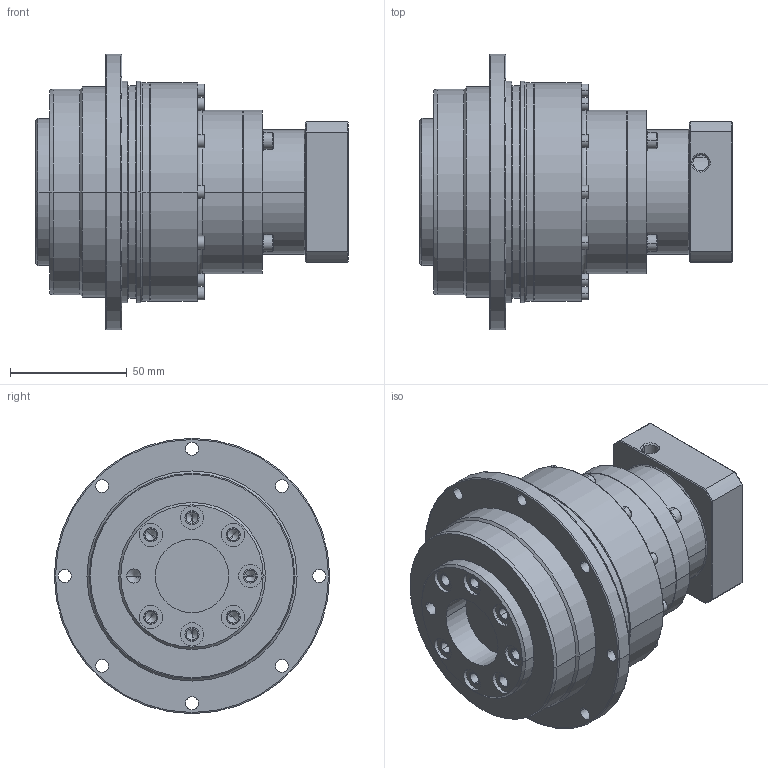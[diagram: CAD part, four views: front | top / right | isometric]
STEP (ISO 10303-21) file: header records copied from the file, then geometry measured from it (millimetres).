
FILE_DESCRIPTION((''),'2;1');
FILE_NAME('AD0902-P4120403_ASM','2007-05-15T',('D00204'),(''),'PRO/ENGINEER BY PARAMETRIC TECHNOLOGY CORPORATION, 2006170','PRO/ENGINEER BY PARAMETRIC TECHNOLOGY CORPORATION, 2006170','');
FILE_SCHEMA(('CONFIG_CONTROL_DESIGN'));
Length unit declared in the file: millimetre
Products named in the file (10): AD090-2; PH230001; 220120405; AD_RING_GEAR-SET2-3_ASM; PK720001; 233100002; 220100504; AD-COVER-SET-2_ASM; P4120403; AD0902-P4120403_ASM
Assembly tree (26 placements, depth 3):
  AD0902-P4120403_ASM
    AD090-2
    AD_RING_GEAR-SET2-3_ASM
      PH230001
      220120405  x12
    AD-COVER-SET-2_ASM
      PK720001
      233100002  x4
      220100504  x4
    P4120403
Bounding box: 134 x 118 x 118 mm (x, y, z)
Volume: 631116.4 mm3; surface area: 110267.2 mm2
Topology: 24 solids, 52 shells, 1086 faces, 2423 edges, 1438 vertices
Faces by surface type: cylinder 429, plane 345, cone 246, torus 66
Entity records: 18353 total; most frequent: DIRECTION 3515, CARTESIAN_POINT 3320, ORIENTED_EDGE 2702, AXIS2_PLACEMENT_3D 1479, EDGE_CURVE 1407, VERTEX_POINT 882, CIRCLE 795, EDGE_LOOP 771
